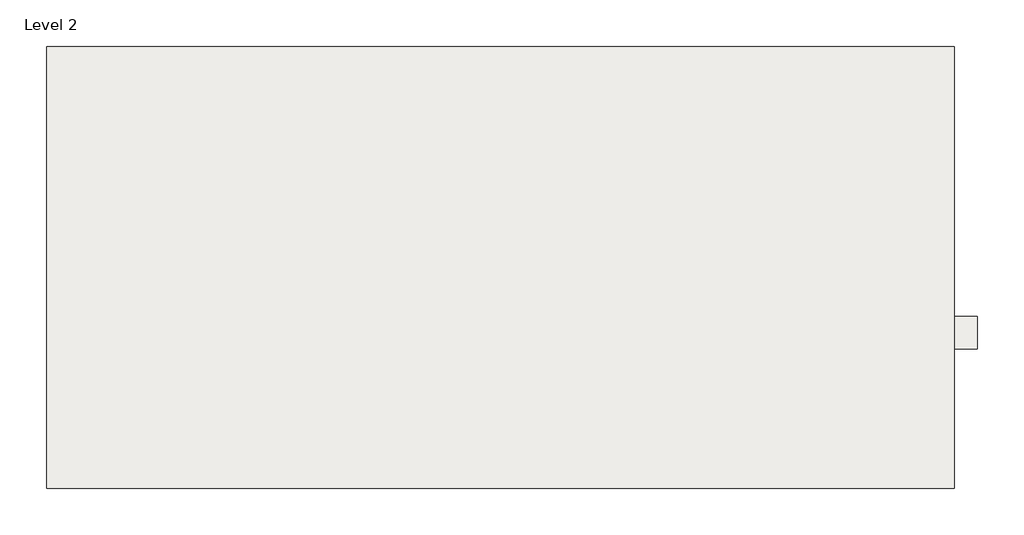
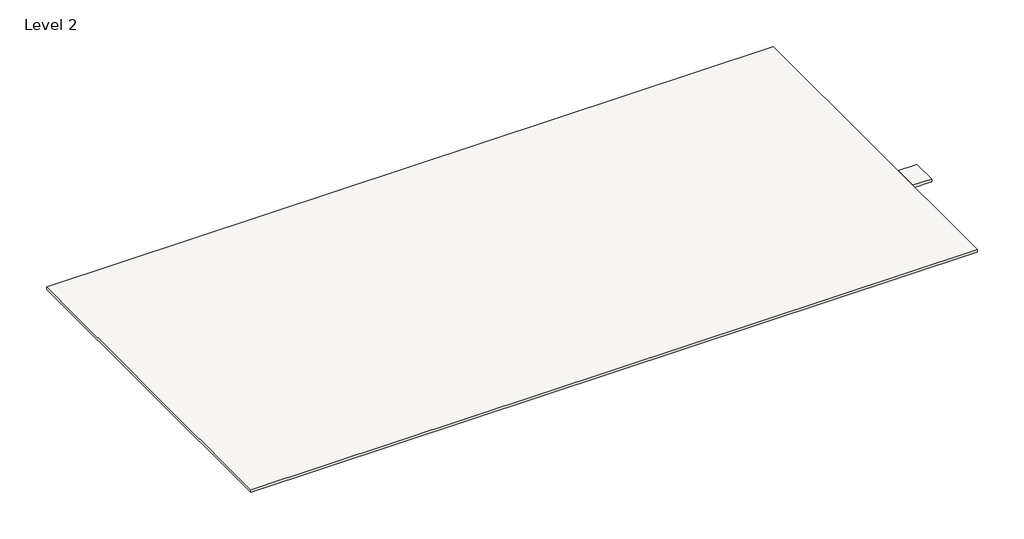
# One storey: 2 slabs.
"""IFC4 building model written with IfcOpenShell, lengths in millimetres."""

from ifc_helpers import new_model, si_unit, frame, origin, place, context, project, spatial, polyline, outline, extrude, element, save

model = new_model("IFC4")

# Units and contexts
model_context = context("Model", 3, world=origin())
ifc_project = project(units=[si_unit("LENGTHUNIT", "METRE", prefix="MILLI")], contexts=[model_context])

# Site, building, storey
site = spatial("IfcSite", under=ifc_project)
building = spatial("IfcBuilding", under=site)
storey = spatial("IfcBuildingStorey", under=building, Name="Level 2", Elevation=3750.0)

# Slabs
placement = place(None, origin())
element("IfcSlab", 1, ObjectType="Generic 150mm", at=placement, inside=storey, context=model_context, shape_type="SweptSolid", body=[
    extrude(outline(polyline([(19081.9375783, 6645.7766516), (19081.9375783, -12354.2233484), (-19918.0624217, -12354.2233484), (-19918.0624217, 6645.7766516), (19081.9375783, 6645.7766516)])), frame((0.0, 0.0, 3600.0), z_axis=(0.0, 0.0, 1.0), x_axis=(1.0, 0.0, 0.0)), (0.0, 0.0, 1.0), 150.0),
])
element("IfcSlab", 2, ObjectType="Generic 150mm", at=placement, inside=storey, context=model_context, shape_type="SweptSolid", body=[
    extrude(outline(polyline([(19081.9375783, -6354.2233484), (19081.9375783, -4973.2952989), (20081.9375783, -4973.2952989), (20081.9375783, -6354.2233484), (19081.9375783, -6354.2233484)])), frame((0.0, 0.0, 3600.0), z_axis=(0.0, 0.0, 1.0), x_axis=(1.0, 0.0, 0.0)), (0.0, 0.0, 1.0), 150.0),
])

save(model, "model.ifc")
